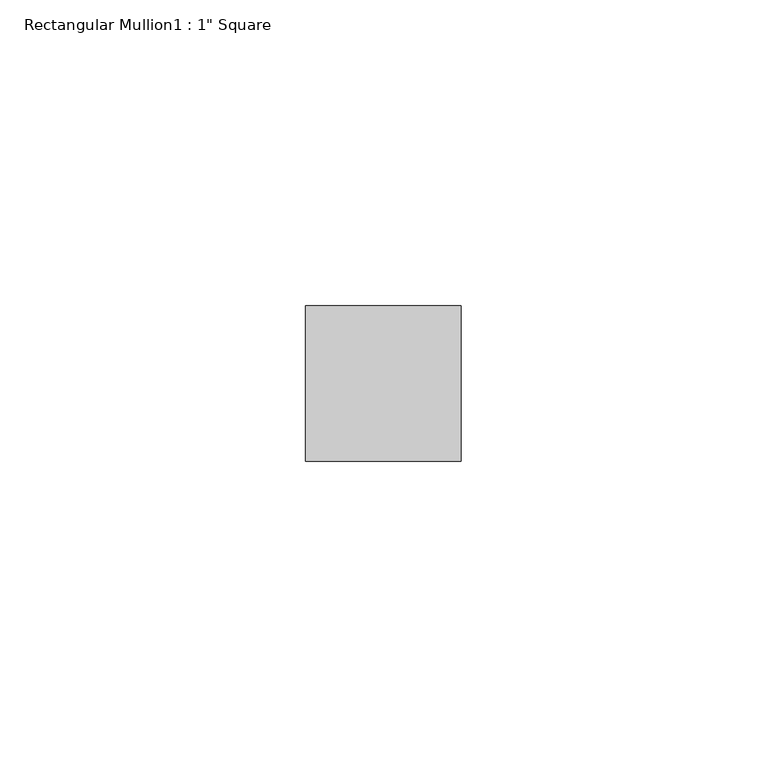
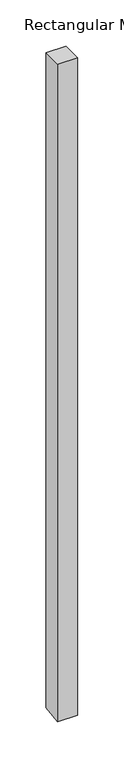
"""IFC4 building model written with IfcOpenShell, lengths in millimetres: member geometry."""

from ifc_helpers import new_model, si_unit, frame, origin, place, context, project, spatial, polyline, outline, extrude, source, transform, mapped, element, save


def member_834e91f0(model_context):
    return source(origin(), model_context, "Body", "SweptSolid", [
        extrude(outline(polyline([(-44.45, 0.0), (-19.05, 0.0), (-19.05, -868.6621003), (-44.45, -871.9742504), (-44.45, 0.0)])), frame((-25.4, 0.0, 0.0), z_axis=(1.0, 0.0, 0.0), x_axis=(0.0, 1.0, 0.0)), (0.0, 0.0, 1.0), 25.4),
    ])


if __name__ == "__main__":
    model = new_model("IFC4")
    model_context = context("Model", 3, world=origin())
    ifc_project = project(units=[si_unit("LENGTHUNIT", "METRE", prefix="MILLI")], contexts=[model_context])
    site = spatial("IfcSite", under=ifc_project)
    building = spatial("IfcBuilding", under=site)
    placement = place(None, origin())
    member_shape = member_834e91f0(model_context)
    element("IfcMember", 1, ObjectType="Rectangular Mullion1 : 1\" Square", at=placement, inside=building, context=model_context, shape_type="MappedRepresentation", body=[
        mapped(member_shape, transform((0.0, 0.0, 0.0), x_axis=(1.0, 0.0, 0.0), y_axis=(0.0, 1.0, 0.0), z_axis=(0.0, 0.0, 1.0))),
    ])
    save(model, "model.ifc")
